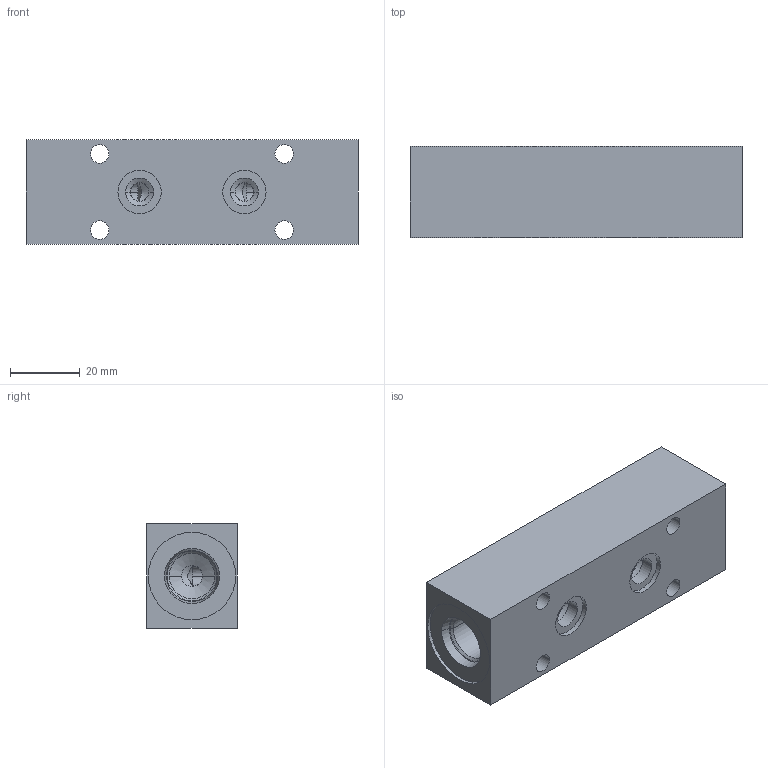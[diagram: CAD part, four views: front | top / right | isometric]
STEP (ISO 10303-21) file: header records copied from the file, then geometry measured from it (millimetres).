
FILE_DESCRIPTION((''),'2;1');
FILE_NAME('28988702','2020-09-09T',('l.soukupova'),(''),'PRO/ENGINEER BY PARAMETRIC TECHNOLOGY CORPORATION, 2015440','PRO/ENGINEER BY PARAMETRIC TECHNOLOGY CORPORATION, 2015440','');
FILE_SCHEMA(('AUTOMOTIVE_DESIGN { 1 0 10303 214 1 1 1 1 }'));
Length unit declared in the file: millimetre
Products named in the file (1): 28988702
Bounding box: 95 x 26 x 30 mm (x, y, z)
Volume: 64326.2 mm3; surface area: 17056.6 mm2
Topology: 1 solids, 3 shells, 68 faces, 187 edges, 146 vertices
Faces by surface type: cylinder 36, cone 20, plane 12
Entity records: 3258 total; most frequent: CARTESIAN_POINT 579, DIRECTION 407, ORIENTED_EDGE 308, PRESENTATION_STYLE_ASSIGNMENT 215, STYLED_ITEM 197, CURVE_STYLE 194, EDGE_CURVE 158, AXIS2_PLACEMENT_3D 157
